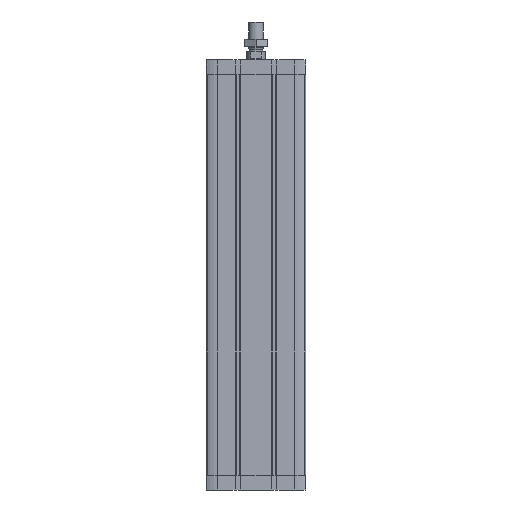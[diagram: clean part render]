
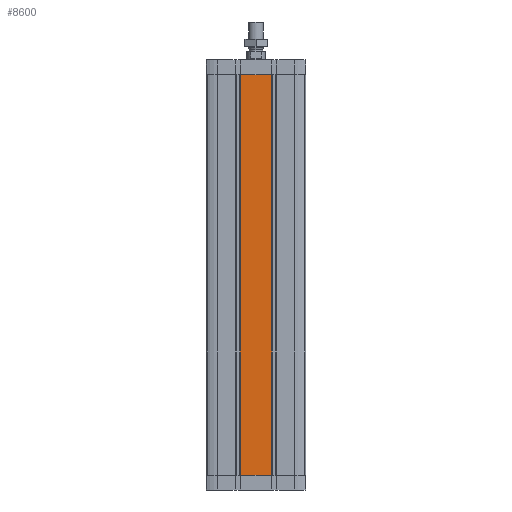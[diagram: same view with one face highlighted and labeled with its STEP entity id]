
A CAD part, front view. The second image highlights one B-rep face of the part: STEP entity #8600.
In plain terms, the highlighted planar face has unit normal (0, -1, 0).
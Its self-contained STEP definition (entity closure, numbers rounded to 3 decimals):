
#128 = CARTESIAN_POINT ( 'NONE',  ( -67., -67., -561. ) ) ;
#187 = ORIENTED_EDGE ( 'NONE', *, *, #6925, .T. ) ;
#346 = VECTOR ( 'NONE', #4582, 1000. ) ;
#404 = VERTEX_POINT ( 'NONE', #16021 ) ;
#480 = LINE ( 'NONE', #128, #11016 ) ;
#1672 = LINE ( 'NONE', #7286, #16373 ) ;
#1967 = DIRECTION ( 'NONE',  ( 0., 0., 1. ) ) ;
#2044 = DIRECTION ( 'NONE',  ( 1., 0., 0. ) ) ;
#2075 = VERTEX_POINT ( 'NONE', #10242 ) ;
#2363 = DIRECTION ( 'NONE',  ( 0., 0., -1. ) ) ;
#2477 = CARTESIAN_POINT ( 'NONE',  ( 20.687, -67., -20. ) ) ;
#3077 = EDGE_CURVE ( 'NONE', #5502, #2075, #14567, .T. ) ;
#3114 = LINE ( 'NONE', #5616, #16304 ) ;
#3542 = VERTEX_POINT ( 'NONE', #7370 ) ;
#3569 = CARTESIAN_POINT ( 'NONE',  ( -20.687, -67., -561. ) ) ;
#4210 = LINE ( 'NONE', #12753, #4329 ) ;
#4329 = VECTOR ( 'NONE', #8524, 1000. ) ;
#4582 = DIRECTION ( 'NONE',  ( 1., 0., 0. ) ) ;
#4677 = CARTESIAN_POINT ( 'NONE',  ( -21.3, -67., -561. ) ) ;
#4777 = CARTESIAN_POINT ( 'NONE',  ( -67., -67., -561. ) ) ;
#5081 = LINE ( 'NONE', #6472, #15800 ) ;
#5502 = VERTEX_POINT ( 'NONE', #13163 ) ;
#5616 = CARTESIAN_POINT ( 'NONE',  ( -21.3, -67., -561. ) ) ;
#5910 = VERTEX_POINT ( 'NONE', #3569 ) ;
#6022 = ORIENTED_EDGE ( 'NONE', *, *, #17265, .F. ) ;
#6189 = VECTOR ( 'NONE', #1967, 1000. ) ;
#6472 = CARTESIAN_POINT ( 'NONE',  ( -21.3, -67., -561. ) ) ;
#6522 = EDGE_CURVE ( 'NONE', #404, #5502, #480, .T. ) ;
#6925 = EDGE_CURVE ( 'NONE', #5910, #404, #3114, .T. ) ;
#7169 = DIRECTION ( 'NONE',  ( 1., 0., 0. ) ) ;
#7271 = CARTESIAN_POINT ( 'NONE',  ( -20.687, -67., -20. ) ) ;
#7286 = CARTESIAN_POINT ( 'NONE',  ( -21.3, -67., -20. ) ) ;
#7370 = CARTESIAN_POINT ( 'NONE',  ( -21.3, -67., -20. ) ) ;
#8015 = ORIENTED_EDGE ( 'NONE', *, *, #10819, .F. ) ;
#8122 = ORIENTED_EDGE ( 'NONE', *, *, #3077, .T. ) ;
#8204 = DIRECTION ( 'NONE',  ( 0., 0., 1. ) ) ;
#8524 = DIRECTION ( 'NONE',  ( 1., 0., 0. ) ) ;
#8600 = ADVANCED_FACE ( 'NONE', ( #16515 ), #16338, .T. ) ;
#9166 = DIRECTION ( 'NONE',  ( 0., -1., 0. ) ) ;
#9277 = EDGE_LOOP ( 'NONE', ( #14732, #17130, #187, #9373, #8122, #15699, #6022, #8015 ) ) ;
#9373 = ORIENTED_EDGE ( 'NONE', *, *, #6522, .T. ) ;
#10242 = CARTESIAN_POINT ( 'NONE',  ( 21.3, -67., -20. ) ) ;
#10384 = DIRECTION ( 'NONE',  ( 1., 0., 0. ) ) ;
#10819 = EDGE_CURVE ( 'NONE', #3542, #11885, #4210, .T. ) ;
#11016 = VECTOR ( 'NONE', #15565, 1000. ) ;
#11772 = LINE ( 'NONE', #4777, #16973 ) ;
#11885 = VERTEX_POINT ( 'NONE', #7271 ) ;
#12753 = CARTESIAN_POINT ( 'NONE',  ( -67., -67., -20. ) ) ;
#12799 = EDGE_CURVE ( 'NONE', #13354, #3542, #5081, .T. ) ;
#13163 = CARTESIAN_POINT ( 'NONE',  ( 21.3, -67., -561. ) ) ;
#13190 = CARTESIAN_POINT ( 'NONE',  ( 21.3, -67., -561. ) ) ;
#13354 = VERTEX_POINT ( 'NONE', #4677 ) ;
#14129 = VERTEX_POINT ( 'NONE', #2477 ) ;
#14463 = EDGE_CURVE ( 'NONE', #14129, #2075, #17355, .T. ) ;
#14567 = LINE ( 'NONE', #13190, #6189 ) ;
#14732 = ORIENTED_EDGE ( 'NONE', *, *, #12799, .F. ) ;
#15565 = DIRECTION ( 'NONE',  ( 1., 0., 0. ) ) ;
#15699 = ORIENTED_EDGE ( 'NONE', *, *, #14463, .F. ) ;
#15800 = VECTOR ( 'NONE', #8204, 1000. ) ;
#15895 = CARTESIAN_POINT ( 'NONE',  ( -67., -67., -20. ) ) ;
#16021 = CARTESIAN_POINT ( 'NONE',  ( 20.687, -67., -561. ) ) ;
#16304 = VECTOR ( 'NONE', #7169, 1000. ) ;
#16338 = PLANE ( 'NONE',  #17822 ) ;
#16373 = VECTOR ( 'NONE', #2044, 1000. ) ;
#16433 = CARTESIAN_POINT ( 'NONE',  ( -67., -67., -561. ) ) ;
#16515 = FACE_OUTER_BOUND ( 'NONE', #9277, .T. ) ;
#16973 = VECTOR ( 'NONE', #10384, 1000. ) ;
#17130 = ORIENTED_EDGE ( 'NONE', *, *, #17757, .T. ) ;
#17265 = EDGE_CURVE ( 'NONE', #11885, #14129, #1672, .T. ) ;
#17355 = LINE ( 'NONE', #15895, #346 ) ;
#17757 = EDGE_CURVE ( 'NONE', #13354, #5910, #11772, .T. ) ;
#17822 = AXIS2_PLACEMENT_3D ( 'NONE', #16433, #9166, #2363 ) ;
